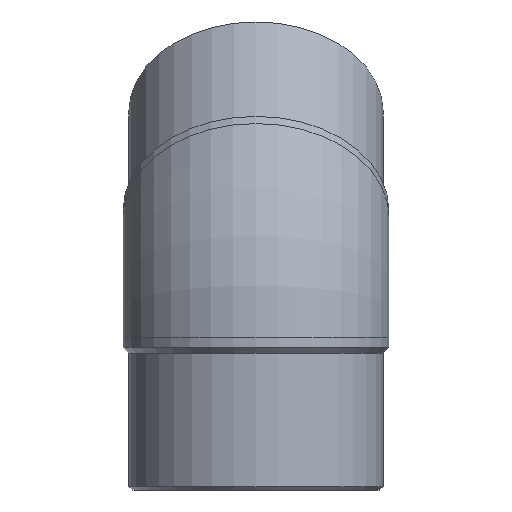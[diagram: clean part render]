
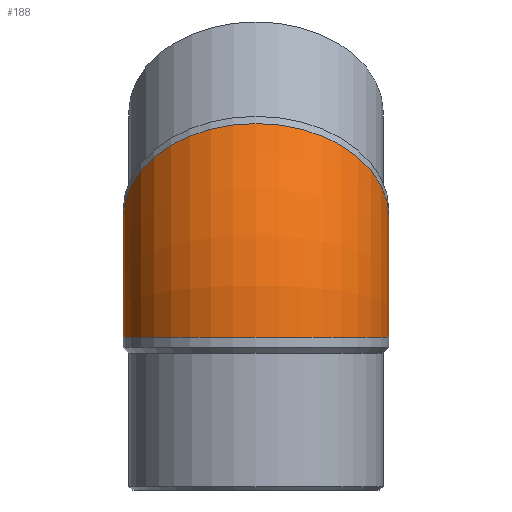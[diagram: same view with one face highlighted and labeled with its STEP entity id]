
A CAD part, left-side view. The second image highlights one B-rep face of the part: STEP entity #188.
In plain terms, the highlighted toroidal (fillet/blend) face has major radius 149.681 mm and minor radius 117.5 mm.
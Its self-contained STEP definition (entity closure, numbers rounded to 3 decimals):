
#20=TOROIDAL_SURFACE('',#225,149.681,117.5);
#53=ORIENTED_EDGE('',*,*,#86,.F.);
#54=ORIENTED_EDGE('',*,*,#87,.T.);
#86=EDGE_CURVE('',#104,#104,#118,.F.);
#87=EDGE_CURVE('',#105,#105,#119,.F.);
#104=VERTEX_POINT('',#347);
#105=VERTEX_POINT('',#350);
#118=CIRCLE('',#224,117.5);
#119=CIRCLE('',#226,117.5);
#136=EDGE_LOOP('',(#53));
#137=EDGE_LOOP('',(#54));
#163=FACE_BOUND('',#136,.T.);
#164=FACE_BOUND('',#137,.T.);
#188=ADVANCED_FACE('',(#163,#164),#20,.T.);
#224=AXIS2_PLACEMENT_3D('',#346,#270,#271);
#225=AXIS2_PLACEMENT_3D('',#348,#272,#273);
#226=AXIS2_PLACEMENT_3D('',#349,#274,#275);
#270=DIRECTION('',(-0.707,0.,-0.707));
#271=DIRECTION('',(0.707,0.,-0.707));
#272=DIRECTION('',(0.,1.,0.));
#273=DIRECTION('',(0.,0.,1.));
#274=DIRECTION('',(0.,0.,-1.));
#275=DIRECTION('',(1.,0.,0.));
#346=CARTESIAN_POINT('',(43.841,0.,43.841));
#347=CARTESIAN_POINT('',(126.926,0.,-39.244));
#348=CARTESIAN_POINT('',(149.681,0.,-62.));
#349=CARTESIAN_POINT('',(0.,0.,-62.));
#350=CARTESIAN_POINT('',(117.5,0.,-62.));
